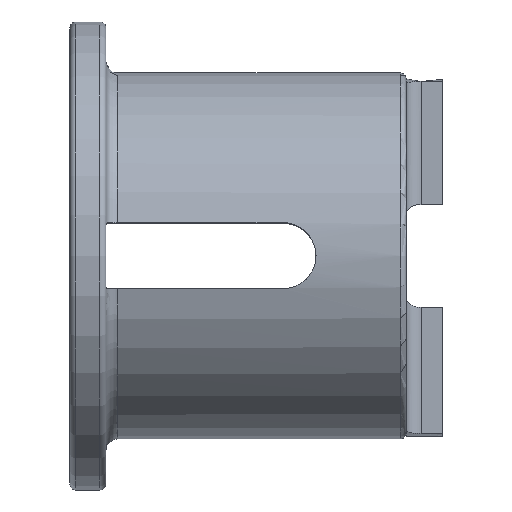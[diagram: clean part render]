
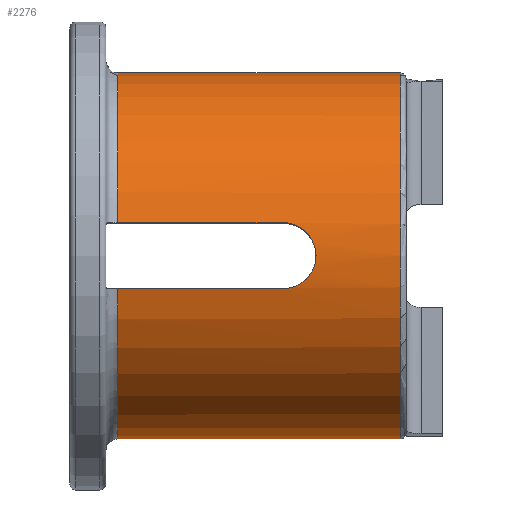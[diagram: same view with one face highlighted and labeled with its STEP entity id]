
A CAD part, top view. The second image highlights one B-rep face of the part: STEP entity #2276.
In plain terms, the highlighted cylindrical face has radius 6.1 mm (diameter 12.2 mm), a partial arc.
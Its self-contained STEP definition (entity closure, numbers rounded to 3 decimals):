
#61 = ORIENTED_EDGE ( 'NONE', *, *, #1455, .T. ) ;
#91 = ORIENTED_EDGE ( 'NONE', *, *, #1975, .F. ) ;
#107 = CARTESIAN_POINT ( 'NONE',  ( 5.9, -6.5, 6. ) ) ;
#114 = CARTESIAN_POINT ( 'NONE',  ( 7., -7.6, 6.1 ) ) ;
#182 = B_SPLINE_CURVE_WITH_KNOTS ( 'NONE', 3,
 ( #114, #2554, #345, #2195, #1834, #777, #2176, #2523 ),
 .UNSPECIFIED., .F., .F.,
 ( 4, 2, 2, 4 ),
 ( 0.001, 0.002, 0.002, 0.003 ),
 .UNSPECIFIED. ) ;
#237 = DIRECTION ( 'NONE',  ( 0., 1., 0. ) ) ;
#241 = CARTESIAN_POINT ( 'NONE',  ( 6.455, -8.561, 6.024 ) ) ;
#252 = CARTESIAN_POINT ( 'NONE',  ( 9.8, -7.6, 0. ) ) ;
#290 = ORIENTED_EDGE ( 'NONE', *, *, #1900, .T. ) ;
#308 = CARTESIAN_POINT ( 'NONE',  ( 10., -1.5, 0. ) ) ;
#345 = CARTESIAN_POINT ( 'NONE',  ( 6.972, -7.313, 6.095 ) ) ;
#351 = AXIS2_PLACEMENT_3D ( 'NONE', #2445, #630, #2693 ) ;
#370 = CIRCLE ( 'NONE', #2313, 6.1 ) ;
#409 = CARTESIAN_POINT ( 'NONE',  ( 7., -7.6, 6.1 ) ) ;
#411 = LINE ( 'NONE', #308, #2854 ) ;
#427 = AXIS2_PLACEMENT_3D ( 'NONE', #2158, #2141, #1022 ) ;
#440 = CARTESIAN_POINT ( 'NONE',  ( 0., -8.7, 6. ) ) ;
#449 = AXIS2_PLACEMENT_3D ( 'NONE', #1527, #2675, #237 ) ;
#489 = EDGE_CURVE ( 'NONE', #1647, #1598, #1064, .T. ) ;
#492 = CARTESIAN_POINT ( 'NONE',  ( 0., -6.5, 6. ) ) ;
#575 = CIRCLE ( 'NONE', #351, 6.1 ) ;
#630 = DIRECTION ( 'NONE',  ( 1., 0., 0. ) ) ;
#634 = DIRECTION ( 'NONE',  ( -1., 0., 0. ) ) ;
#652 = CARTESIAN_POINT ( 'NONE',  ( 6.19, -8.671, 6.006 ) ) ;
#660 = CARTESIAN_POINT ( 'NONE',  ( 6.577, -8.479, 6.037 ) ) ;
#777 = CARTESIAN_POINT ( 'NONE',  ( 6.475, -6.619, 6.024 ) ) ;
#852 = FACE_OUTER_BOUND ( 'NONE', #1402, .T. ) ;
#866 = CARTESIAN_POINT ( 'NONE',  ( 6.779, -8.276, 6.063 ) ) ;
#886 = DIRECTION ( 'NONE',  ( 1., 0., 0. ) ) ;
#893 = CARTESIAN_POINT ( 'NONE',  ( 7., -7.744, 6.1 ) ) ;
#930 = ORIENTED_EDGE ( 'NONE', *, *, #2849, .T. ) ;
#939 = ORIENTED_EDGE ( 'NONE', *, *, #1082, .F. ) ;
#993 = B_SPLINE_CURVE_WITH_KNOTS ( 'NONE', 3,
 ( #2242, #1578, #652, #241, #660, #866, #2701, #1805, #893, #1551 ),
 .UNSPECIFIED., .F., .F.,
 ( 4, 2, 2, 2, 4 ),
 ( 0., 0., 0.001, 0.001, 0.001 ),
 .UNSPECIFIED. ) ;
#1022 = DIRECTION ( 'NONE',  ( 0., 1., 0. ) ) ;
#1064 = LINE ( 'NONE', #2469, #1280 ) ;
#1067 = VERTEX_POINT ( 'NONE', #1584 ) ;
#1082 = EDGE_CURVE ( 'NONE', #1378, #1309, #182, .T. ) ;
#1105 = LINE ( 'NONE', #440, #1399 ) ;
#1209 = DIRECTION ( 'NONE',  ( 1., 0., 0. ) ) ;
#1280 = VECTOR ( 'NONE', #886, 1000. ) ;
#1309 = VERTEX_POINT ( 'NONE', #107 ) ;
#1378 = VERTEX_POINT ( 'NONE', #409 ) ;
#1399 = VECTOR ( 'NONE', #634, 1000. ) ;
#1402 = EDGE_LOOP ( 'NONE', ( #61, #2632, #930, #91, #2257, #290, #939, #2880, #2457 ) ) ;
#1416 = DIRECTION ( 'NONE',  ( 1., 0., 0. ) ) ;
#1450 = VERTEX_POINT ( 'NONE', #2153 ) ;
#1455 = EDGE_CURVE ( 'NONE', #2550, #1647, #575, .T. ) ;
#1469 = CARTESIAN_POINT ( 'NONE',  ( 0.4, -13.7, 0. ) ) ;
#1527 = CARTESIAN_POINT ( 'NONE',  ( 0.4, -7.6, 0. ) ) ;
#1536 = EDGE_CURVE ( 'NONE', #1450, #1378, #993, .T. ) ;
#1547 = VERTEX_POINT ( 'NONE', #1618 ) ;
#1551 = CARTESIAN_POINT ( 'NONE',  ( 7., -7.6, 6.1 ) ) ;
#1578 = CARTESIAN_POINT ( 'NONE',  ( 6.046, -8.7, 6. ) ) ;
#1584 = CARTESIAN_POINT ( 'NONE',  ( 0.4, -6.5, 6. ) ) ;
#1598 = VERTEX_POINT ( 'NONE', #1680 ) ;
#1618 = CARTESIAN_POINT ( 'NONE',  ( 9.8, -1.5, 0. ) ) ;
#1647 = VERTEX_POINT ( 'NONE', #1469 ) ;
#1670 = VECTOR ( 'NONE', #1416, 1000. ) ;
#1680 = CARTESIAN_POINT ( 'NONE',  ( 9.8, -13.7, 0. ) ) ;
#1805 = CARTESIAN_POINT ( 'NONE',  ( 6.971, -7.889, 6.095 ) ) ;
#1820 = CIRCLE ( 'NONE', #449, 6.1 ) ;
#1834 = CARTESIAN_POINT ( 'NONE',  ( 6.78, -6.924, 6.063 ) ) ;
#1900 = EDGE_CURVE ( 'NONE', #1067, #1309, #2174, .T. ) ;
#1975 = EDGE_CURVE ( 'NONE', #2865, #1547, #411, .T. ) ;
#2063 = DIRECTION ( 'NONE',  ( -1., 0., 0. ) ) ;
#2141 = DIRECTION ( 'NONE',  ( 1., 0., 0. ) ) ;
#2153 = CARTESIAN_POINT ( 'NONE',  ( 5.9, -8.7, 6. ) ) ;
#2158 = CARTESIAN_POINT ( 'NONE',  ( 10., -7.6, 0. ) ) ;
#2174 = LINE ( 'NONE', #492, #1670 ) ;
#2176 = CARTESIAN_POINT ( 'NONE',  ( 6.191, -6.5, 6. ) ) ;
#2195 = CARTESIAN_POINT ( 'NONE',  ( 6.861, -7.045, 6.076 ) ) ;
#2242 = CARTESIAN_POINT ( 'NONE',  ( 5.9, -8.7, 6. ) ) ;
#2257 = ORIENTED_EDGE ( 'NONE', *, *, #2407, .T. ) ;
#2270 = DIRECTION ( 'NONE',  ( 0., 1., 0. ) ) ;
#2276 = ADVANCED_FACE ( 'NONE', ( #852 ), #2408, .T. ) ;
#2313 = AXIS2_PLACEMENT_3D ( 'NONE', #252, #2063, #2270 ) ;
#2407 = EDGE_CURVE ( 'NONE', #2865, #1067, #1820, .T. ) ;
#2408 = CYLINDRICAL_SURFACE ( 'NONE', #427, 6.1 ) ;
#2445 = CARTESIAN_POINT ( 'NONE',  ( 0.4, -7.6, 0. ) ) ;
#2457 = ORIENTED_EDGE ( 'NONE', *, *, #2668, .T. ) ;
#2469 = CARTESIAN_POINT ( 'NONE',  ( 10., -13.7, 0. ) ) ;
#2523 = CARTESIAN_POINT ( 'NONE',  ( 5.9, -6.5, 6. ) ) ;
#2550 = VERTEX_POINT ( 'NONE', #2799 ) ;
#2554 = CARTESIAN_POINT ( 'NONE',  ( 7., -7.456, 6.1 ) ) ;
#2632 = ORIENTED_EDGE ( 'NONE', *, *, #489, .T. ) ;
#2641 = CARTESIAN_POINT ( 'NONE',  ( 0.4, -1.5, 0. ) ) ;
#2668 = EDGE_CURVE ( 'NONE', #1450, #2550, #1105, .T. ) ;
#2675 = DIRECTION ( 'NONE',  ( 1., 0., 0. ) ) ;
#2693 = DIRECTION ( 'NONE',  ( 0., 1., 0. ) ) ;
#2701 = CARTESIAN_POINT ( 'NONE',  ( 6.861, -8.154, 6.076 ) ) ;
#2799 = CARTESIAN_POINT ( 'NONE',  ( 0.4, -8.7, 6. ) ) ;
#2849 = EDGE_CURVE ( 'NONE', #1598, #1547, #370, .T. ) ;
#2854 = VECTOR ( 'NONE', #1209, 1000. ) ;
#2865 = VERTEX_POINT ( 'NONE', #2641 ) ;
#2880 = ORIENTED_EDGE ( 'NONE', *, *, #1536, .F. ) ;
